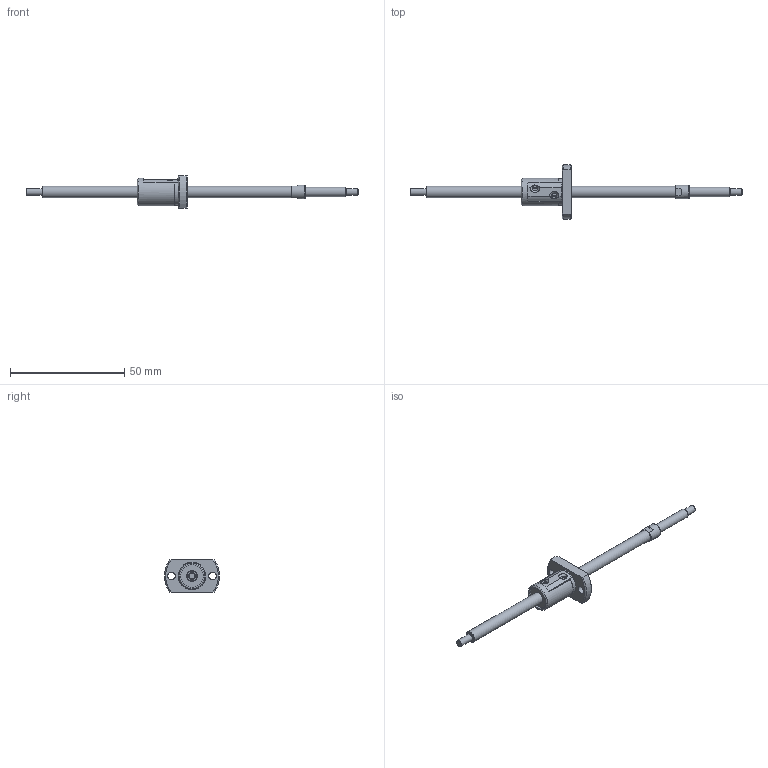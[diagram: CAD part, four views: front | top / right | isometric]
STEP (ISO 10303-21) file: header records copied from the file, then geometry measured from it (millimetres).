
FILE_DESCRIPTION(/* description */ ('STEP AP214'),/* implementation_level */ '2;1');
FILE_NAME(/* name */ 'SG0504-105R145C3C0X(41.5)',/* time_stamp */ '2026-07-20T19:41:41+02:00',/* author */ ('License CC BY-ND 4.0'),/* organization */ ('CADENAS'),/* preprocessor_version */ 'ST-DEVELOPER v20',/* originating_system */ 'PARTsolutions',/* authorisation */ ' ');
FILE_SCHEMA (('AUTOMOTIVE_DESIGN {1 0 10303 214 3 1 1}'));
Length unit declared in the file: millimetre
Products named in the file (3): SG0504-105R145C3C0X(41.5); SG0504-105R145C3C_shaft; SG0504_nut
Assembly tree (2 placements, depth 2):
  SG0504-105R145C3C0X(41.5)
    SG0504-105R145C3C_shaft
    SG0504_nut
Bounding box: 145 x 24 x 14 mm (x, y, z)
Volume: 5207.4 mm3; surface area: 4187.3 mm2
Topology: 2 solids, 2 shells, 75 faces, 181 edges, 118 vertices
Faces by surface type: plane 36, cylinder 24, cone 14, torus 1
Full cylindrical faces by diameter (mm): 3 x2, 3.4 x2, 4 x1, 5 x2, 6 x1, 10 x2, 11.6 x1, 12 x1
Entity records: 2115 total; most frequent: CARTESIAN_POINT 394, DIRECTION 358, ORIENTED_EDGE 298, EDGE_CURVE 149, AXIS2_PLACEMENT_3D 149, EDGE_LOOP 112, FACE_BOUND 112, VERTEX_POINT 109
